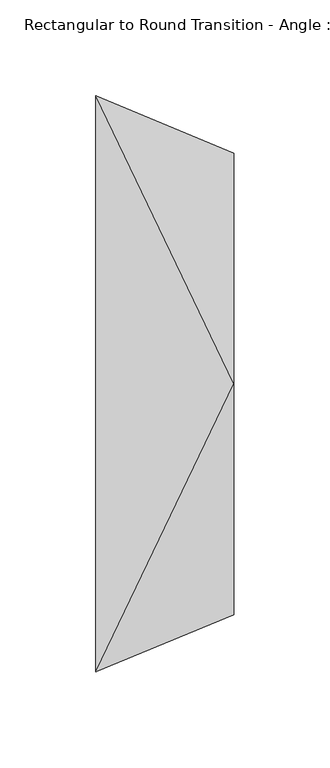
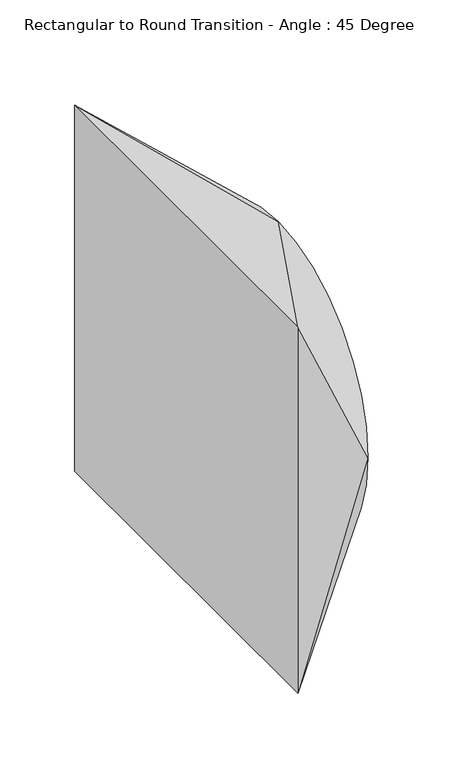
"""IFC4 building model written with IfcOpenShell, lengths in millimetres: duct fitting geometry, Rectangular to Round Transition - Angle : 45 Degree."""

from ifc_helpers import new_model, si_unit, frame, origin, place, context, project, spatial, circle_curve, source, transform, mapped, element, save
from ifc_brep_helpers import plane_surface, spline_surface, advanced_brep


def rectangular_to_round_transition_angle_45_degree_828fc044(model_context):
    return source(origin(), model_context, "Body", "AdvancedBrep", [
        advanced_brep(
        [(71.6640236, 0.0, 120.3157895), (71.6640236, -120.3157895, 0.0), (71.6640236, 0.0, -120.3157895), (71.6640236, 120.3157895, 0.0), (0.0, -150.0, 150.0), (0.0, 150.0, 150.0), (0.0, 150.0, -150.0), (0.0, -150.0, -150.0)],
        [
            (0, 1, circle_curve(frame((71.6640236, 0.0, 0.0), z_axis=(1.0, 0.0, 0.0), x_axis=(0.0, 1.0, 0.0)), 120.3157895)),
            (1, 2, circle_curve(frame((71.6640236, 0.0, 0.0), z_axis=(1.0, 0.0, 0.0), x_axis=(0.0, 1.0, 0.0)), 120.3157895)),
            (2, 3, circle_curve(frame((71.6640236, 0.0, 0.0), z_axis=(1.0, 0.0, 0.0), x_axis=(0.0, 1.0, 0.0)), 120.3157895)),
            (3, 0, circle_curve(frame((71.6640236, 0.0, 0.0), z_axis=(1.0, 0.0, 0.0), x_axis=(0.0, 1.0, 0.0)), 120.3157895)),
            (4, 5),
            (5, 6),
            (6, 7),
            (7, 4),
            (0, 4),
            (4, 1),
            (7, 1),
            (7, 2),
            (6, 2),
            (6, 3),
            (5, 3),
            (5, 0),
        ],
        [
            plane_surface(frame((71.6640236, 0.0, 0.0), z_axis=(1.0, 0.0, 0.0), x_axis=(0.0, 0.0, -1.0))),
            plane_surface(frame((0.0, 0.0, 0.0), z_axis=(-1.0, 0.0, 0.0), x_axis=(0.0, 0.0, -1.0))),
            spline_surface(2, 1, [[(0.0, -150.0, 150.0), (71.6640236, 0.0, 120.3157895)], [(0.0, -150.0, 150.0), (71.6640236, -120.3157895, 120.3157895)], [(0.0, -150.0, 150.0), (71.6640236, -120.3157895, 0.0)]], [3, 3], [2, 2], [0.0, 1.0], [0.0, 1.0], weights=[[1.0, 1.0], [0.7071067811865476, 0.7071067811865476], [1.0, 1.0]]),
            plane_surface(frame((0.0, -150.0, 0.0), z_axis=(0.3826834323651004, -0.9238795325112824, 0.0), x_axis=(0.0, 0.0, -1.0))),
            spline_surface(2, 1, [[(0.0, -150.0, -150.0), (71.6640236, -120.3157895, 0.0)], [(0.0, -150.0, -150.0), (71.6640236, -120.3157895, -120.3157895)], [(0.0, -150.0, -150.0), (71.6640236, 0.0, -120.3157895)]], [3, 3], [2, 2], [0.0, 1.0], [0.0, 1.0], weights=[[1.0, 1.0], [0.7071067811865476, 0.7071067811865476], [1.0, 1.0]]),
            plane_surface(frame((0.0, 0.0, -150.0), z_axis=(0.38268343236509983, 0.0, -0.9238795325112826), x_axis=(0.0, 1.0, 0.0))),
            spline_surface(2, 1, [[(0.0, 150.0, -150.0), (71.6640236, 0.0, -120.3157895)], [(0.0, 150.0, -150.0), (71.6640236, 120.3157895, -120.3157895)], [(0.0, 150.0, -150.0), (71.6640236, 120.3157895, 0.0)]], [3, 3], [2, 2], [0.0, 1.0], [0.0, 1.0], weights=[[1.0, 1.0], [0.7071067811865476, 0.7071067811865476], [1.0, 1.0]]),
            plane_surface(frame((0.0, 150.0, 0.0), z_axis=(0.3826834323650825, 0.9238795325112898, 0.0), x_axis=(0.0, 0.0, 1.0))),
            spline_surface(2, 1, [[(0.0, 150.0, 150.0), (71.6640236, 120.3157895, 0.0)], [(0.0, 150.0, 150.0), (71.6640236, 120.3157895, 120.3157895)], [(0.0, 150.0, 150.0), (71.6640236, 0.0, 120.3157895)]], [3, 3], [2, 2], [0.0, 1.0], [0.0, 1.0], weights=[[1.0, 1.0], [0.7071067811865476, 0.7071067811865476], [1.0, 1.0]]),
            plane_surface(frame((0.0, 0.0, 150.0), z_axis=(0.3826834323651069, 0.0, 0.9238795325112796), x_axis=(0.0, -1.0, 0.0))),
        ],
        [
            (0, [[1, 2, 3, 4]]),
            (1, [[5, 6, 7, 8]]),
            (2, [[-1, 9, 10]]),
            (3, [[-8, 11, -10]]),
            (4, [[-2, -11, 12]]),
            (5, [[-7, 13, -12]]),
            (6, [[-3, -13, 14]]),
            (7, [[-6, 15, -14]]),
            (8, [[-4, -15, 16]]),
            (9, [[-5, -9, -16]]),
        ],
    ),
    ])


if __name__ == "__main__":
    model = new_model("IFC4")
    model_context = context("Model", 3, world=origin())
    ifc_project = project(units=[si_unit("LENGTHUNIT", "METRE", prefix="MILLI")], contexts=[model_context])
    site = spatial("IfcSite", under=ifc_project)
    building = spatial("IfcBuilding", under=site)
    placement = place(None, origin())
    rectangular_to_round_transition_angle_45_degree_shape = rectangular_to_round_transition_angle_45_degree_828fc044(model_context)
    element("IfcDuctFitting", 1, ObjectType="Rectangular to Round Transition - Angle : 45 Degree", at=placement, inside=building, context=model_context, shape_type="MappedRepresentation", body=[
        mapped(rectangular_to_round_transition_angle_45_degree_shape, transform((0.0, 0.0, 0.0), x_axis=(1.0, 0.0, 0.0), y_axis=(0.0, 1.0, 0.0), z_axis=(0.0, 0.0, 1.0))),
    ])
    save(model, "model.ifc")
